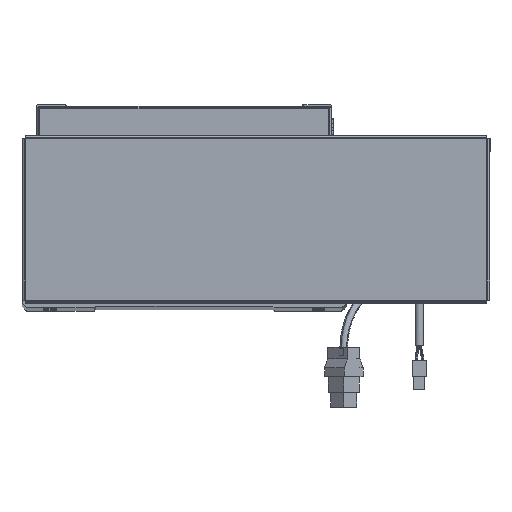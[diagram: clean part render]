
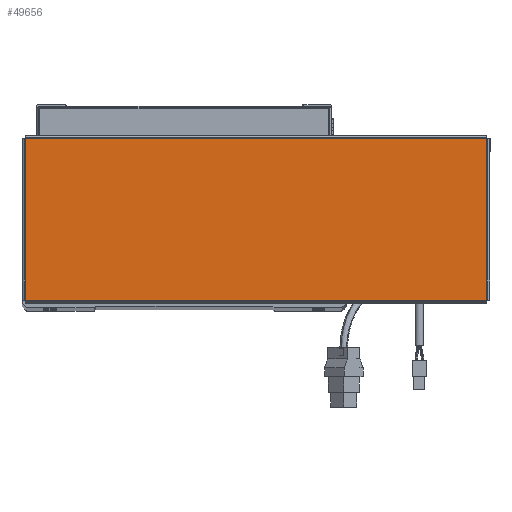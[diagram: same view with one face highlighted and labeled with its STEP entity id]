
A CAD part, top view. The second image highlights one B-rep face of the part: STEP entity #49656.
In plain terms, the highlighted planar face has unit normal (0, 0, 1).
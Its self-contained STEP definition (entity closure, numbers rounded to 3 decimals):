
#9 = CARTESIAN_POINT ( 'NONE',  ( -156.513, -54.763, 0. ) ) ;
#1373 = ORIENTED_EDGE ( 'NONE', *, *, #19703, .T. ) ;
#2608 = CARTESIAN_POINT ( 'NONE',  ( 0., 0., 0. ) ) ;
#3810 = LINE ( 'NONE', #33042, #65643 ) ;
#4171 = CARTESIAN_POINT ( 'NONE',  ( -156.513, 54.793, 0. ) ) ;
#4590 = ORIENTED_EDGE ( 'NONE', *, *, #41447, .T. ) ;
#12132 = DIRECTION ( 'NONE',  ( -1., 0., 0. ) ) ;
#12498 = VERTEX_POINT ( 'NONE', #26500 ) ;
#14979 = VERTEX_POINT ( 'NONE', #9 ) ;
#15155 = VERTEX_POINT ( 'NONE', #28111 ) ;
#19703 = EDGE_CURVE ( 'NONE', #25529, #12498, #23451, .T. ) ;
#22499 = ORIENTED_EDGE ( 'NONE', *, *, #52614, .T. ) ;
#23039 = DIRECTION ( 'NONE',  ( 1., 0., 0. ) ) ;
#23451 = LINE ( 'NONE', #25044, #57686 ) ;
#24135 = DIRECTION ( 'NONE',  ( 0., -1., 0. ) ) ;
#25044 = CARTESIAN_POINT ( 'NONE',  ( 156.513, -54.793, 0. ) ) ;
#25529 = VERTEX_POINT ( 'NONE', #59255 ) ;
#26500 = CARTESIAN_POINT ( 'NONE',  ( 156.513, 54.763, 0. ) ) ;
#26592 = FACE_OUTER_BOUND ( 'NONE', #61827, .T. ) ;
#28111 = CARTESIAN_POINT ( 'NONE',  ( -156.513, 54.763, 0. ) ) ;
#28861 = LINE ( 'NONE', #4171, #59721 ) ;
#33042 = CARTESIAN_POINT ( 'NONE',  ( 156.543, 54.763, 0. ) ) ;
#40584 = ORIENTED_EDGE ( 'NONE', *, *, #43416, .T. ) ;
#40788 = DIRECTION ( 'NONE',  ( 1., 0., 0. ) ) ;
#41447 = EDGE_CURVE ( 'NONE', #15155, #14979, #28861, .T. ) ;
#41637 = VECTOR ( 'NONE', #40788, 1000. ) ;
#43416 = EDGE_CURVE ( 'NONE', #14979, #25529, #53846, .T. ) ;
#49656 = ADVANCED_FACE ( 'NONE', ( #26592 ), #64453, .T. ) ;
#52614 = EDGE_CURVE ( 'NONE', #12498, #15155, #3810, .T. ) ;
#53846 = LINE ( 'NONE', #61223, #41637 ) ;
#55831 = AXIS2_PLACEMENT_3D ( 'NONE', #2608, #59429, #23039 ) ;
#56899 = DIRECTION ( 'NONE',  ( 0., 1., 0. ) ) ;
#57686 = VECTOR ( 'NONE', #56899, 1000. ) ;
#59255 = CARTESIAN_POINT ( 'NONE',  ( 156.513, -54.763, 0. ) ) ;
#59429 = DIRECTION ( 'NONE',  ( 0., 0., 1. ) ) ;
#59721 = VECTOR ( 'NONE', #24135, 1000. ) ;
#61223 = CARTESIAN_POINT ( 'NONE',  ( -156.543, -54.763, 0. ) ) ;
#61827 = EDGE_LOOP ( 'NONE', ( #40584, #1373, #22499, #4590 ) ) ;
#64453 = PLANE ( 'NONE',  #55831 ) ;
#65643 = VECTOR ( 'NONE', #12132, 1000. ) ;
